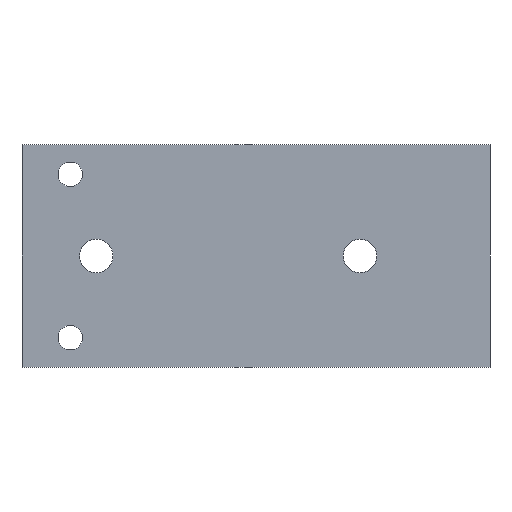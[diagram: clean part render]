
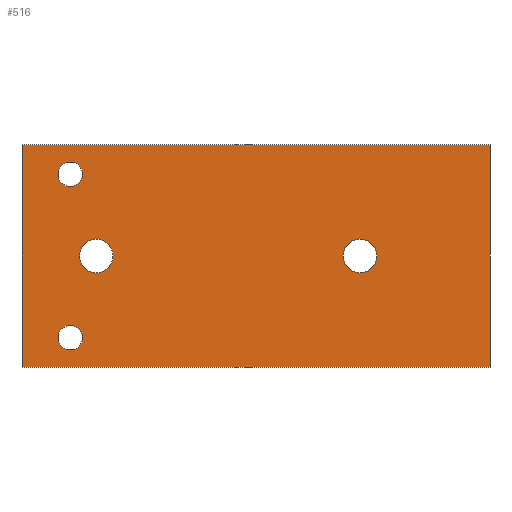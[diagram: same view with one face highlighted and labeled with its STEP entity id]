
A CAD part, front view. The second image highlights one B-rep face of the part: STEP entity #516.
In plain terms, the highlighted planar face has unit normal (0, -1, 0).
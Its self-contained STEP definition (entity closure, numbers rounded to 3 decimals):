
#5 = EDGE_CURVE ( 'NONE', #55, #407, #508, .T. ) ;
#9 = EDGE_CURVE ( 'NONE', #408, #556, #285, .T. ) ;
#12 = EDGE_CURVE ( 'NONE', #631, #54, #284, .T. ) ;
#13 = EDGE_CURVE ( 'NONE', #407, #55, #287, .T. ) ;
#14 = EDGE_CURVE ( 'NONE', #556, #408, #290, .T. ) ;
#15 = EDGE_CURVE ( 'NONE', #386, #64, #291, .T. ) ;
#16 = EDGE_CURVE ( 'NONE', #406, #386, #289, .T. ) ;
#17 = EDGE_CURVE ( 'NONE', #62, #406, #292, .T. ) ;
#18 = EDGE_CURVE ( 'NONE', #64, #62, #294, .T. ) ;
#19 = EDGE_CURVE ( 'NONE', #630, #56, #296, .T. ) ;
#37 = ORIENTED_EDGE ( 'NONE', *, *, #19, .T. ) ;
#40 = ORIENTED_EDGE ( 'NONE', *, *, #5, .F. ) ;
#54 = VERTEX_POINT ( 'NONE', #362 ) ;
#55 = VERTEX_POINT ( 'NONE', #370 ) ;
#56 = VERTEX_POINT ( 'NONE', #361 ) ;
#62 = VERTEX_POINT ( 'NONE', #354 ) ;
#64 = VERTEX_POINT ( 'NONE', #352 ) ;
#65 = EDGE_LOOP ( 'NONE', ( #40, #393 ) ) ;
#68 = EDGE_LOOP ( 'NONE', ( #492, #497, #476, #498 ) ) ;
#93 = FACE_OUTER_BOUND ( 'NONE', #68, .T. ) ;
#95 = FACE_BOUND ( 'NONE', #123, .T. ) ;
#99 = FACE_BOUND ( 'NONE', #65, .T. ) ;
#101 = FACE_BOUND ( 'NONE', #122, .T. ) ;
#102 = FACE_BOUND ( 'NONE', #124, .T. ) ;
#122 = EDGE_LOOP ( 'NONE', ( #37, #486 ) ) ;
#123 = EDGE_LOOP ( 'NONE', ( #128, #404 ) ) ;
#124 = EDGE_LOOP ( 'NONE', ( #133, #496 ) ) ;
#128 = ORIENTED_EDGE ( 'NONE', *, *, #12, .T. ) ;
#133 = ORIENTED_EDGE ( 'NONE', *, *, #9, .F. ) ;
#185 = CARTESIAN_POINT ( 'NONE',  ( 10., 0., 2.25 ) ) ;
#199 = DIRECTION ( 'NONE',  ( 0., 0., 1. ) ) ;
#200 = DIRECTION ( 'NONE',  ( 0., 1., 0. ) ) ;
#201 = CARTESIAN_POINT ( 'NONE',  ( 45.5, 0., 0. ) ) ;
#222 = CARTESIAN_POINT ( 'NONE',  ( 45.5, 0., 2.25 ) ) ;
#224 = DIRECTION ( 'NONE',  ( 0., 0., 1. ) ) ;
#225 = DIRECTION ( 'NONE',  ( 0., 1., 0. ) ) ;
#226 = CARTESIAN_POINT ( 'NONE',  ( 10., 0., 0. ) ) ;
#234 = CARTESIAN_POINT ( 'NONE',  ( 6.5, 0., -12.65 ) ) ;
#284 = CIRCLE ( 'NONE', #615, 2.25 ) ;
#285 = CIRCLE ( 'NONE', #617, 1.65 ) ;
#287 = CIRCLE ( 'NONE', #614, 1.65 ) ;
#289 = LINE ( 'NONE', #430, #295 ) ;
#290 = CIRCLE ( 'NONE', #613, 1.65 ) ;
#291 = LINE ( 'NONE', #437, #293 ) ;
#292 = LINE ( 'NONE', #431, #297 ) ;
#293 = VECTOR ( 'NONE', #436, 1000. ) ;
#294 = LINE ( 'NONE', #426, #299 ) ;
#295 = VECTOR ( 'NONE', #425, 1000. ) ;
#296 = CIRCLE ( 'NONE', #612, 2.25 ) ;
#297 = VECTOR ( 'NONE', #422, 1000. ) ;
#299 = VECTOR ( 'NONE', #419, 1000. ) ;
#324 = DIRECTION ( 'NONE',  ( 0., 0., -1. ) ) ;
#330 = CARTESIAN_POINT ( 'NONE',  ( 0., 0., -15. ) ) ;
#332 = PLANE ( 'NONE',  #604 ) ;
#338 = DIRECTION ( 'NONE',  ( 0., -1., 0. ) ) ;
#340 = CARTESIAN_POINT ( 'NONE',  ( 6.5, 0., -9.35 ) ) ;
#347 = CARTESIAN_POINT ( 'NONE',  ( 0., 0., -15. ) ) ;
#348 = CARTESIAN_POINT ( 'NONE',  ( 6.5, 0., 9.35 ) ) ;
#350 = CARTESIAN_POINT ( 'NONE',  ( 63., 0., -15. ) ) ;
#352 = CARTESIAN_POINT ( 'NONE',  ( 0., 0., 15. ) ) ;
#354 = CARTESIAN_POINT ( 'NONE',  ( 63., 0., 15. ) ) ;
#361 = CARTESIAN_POINT ( 'NONE',  ( 45.5, 0., -2.25 ) ) ;
#362 = CARTESIAN_POINT ( 'NONE',  ( 10., 0., -2.25 ) ) ;
#370 = CARTESIAN_POINT ( 'NONE',  ( 6.5, 0., 12.65 ) ) ;
#386 = VERTEX_POINT ( 'NONE', #347 ) ;
#393 = ORIENTED_EDGE ( 'NONE', *, *, #13, .F. ) ;
#404 = ORIENTED_EDGE ( 'NONE', *, *, #621, .T. ) ;
#406 = VERTEX_POINT ( 'NONE', #350 ) ;
#407 = VERTEX_POINT ( 'NONE', #348 ) ;
#408 = VERTEX_POINT ( 'NONE', #340 ) ;
#410 = DIRECTION ( 'NONE',  ( 0., 0., 1. ) ) ;
#412 = DIRECTION ( 'NONE',  ( 0., 1., 0. ) ) ;
#413 = CARTESIAN_POINT ( 'NONE',  ( 45.5, 0., 0. ) ) ;
#419 = DIRECTION ( 'NONE',  ( 1., 0., 0. ) ) ;
#422 = DIRECTION ( 'NONE',  ( 0., 0., -1. ) ) ;
#425 = DIRECTION ( 'NONE',  ( -1., 0., 0. ) ) ;
#426 = CARTESIAN_POINT ( 'NONE',  ( 0., 0., 15. ) ) ;
#427 = DIRECTION ( 'NONE',  ( 0., 0., -1. ) ) ;
#428 = DIRECTION ( 'NONE',  ( 0., -1., 0. ) ) ;
#429 = CARTESIAN_POINT ( 'NONE',  ( 6.5, 0., -11. ) ) ;
#430 = CARTESIAN_POINT ( 'NONE',  ( 0., 0., -15. ) ) ;
#431 = CARTESIAN_POINT ( 'NONE',  ( 63., 0., 15. ) ) ;
#433 = DIRECTION ( 'NONE',  ( 0., 0., -1. ) ) ;
#434 = DIRECTION ( 'NONE',  ( 0., -1., 0. ) ) ;
#435 = CARTESIAN_POINT ( 'NONE',  ( 6.5, 0., 11. ) ) ;
#436 = DIRECTION ( 'NONE',  ( 0., 0., 1. ) ) ;
#437 = CARTESIAN_POINT ( 'NONE',  ( 0., 0., 15. ) ) ;
#438 = DIRECTION ( 'NONE',  ( 0., 0., 1. ) ) ;
#439 = DIRECTION ( 'NONE',  ( 0., 1., 0. ) ) ;
#440 = CARTESIAN_POINT ( 'NONE',  ( 10., 0., 0. ) ) ;
#444 = DIRECTION ( 'NONE',  ( 0., 0., -1. ) ) ;
#445 = DIRECTION ( 'NONE',  ( 0., -1., 0. ) ) ;
#446 = CARTESIAN_POINT ( 'NONE',  ( 6.5, 0., -11. ) ) ;
#453 = DIRECTION ( 'NONE',  ( 0., 0., -1. ) ) ;
#454 = DIRECTION ( 'NONE',  ( 0., -1., 0. ) ) ;
#456 = CARTESIAN_POINT ( 'NONE',  ( 6.5, 0., 11. ) ) ;
#476 = ORIENTED_EDGE ( 'NONE', *, *, #17, .F. ) ;
#486 = ORIENTED_EDGE ( 'NONE', *, *, #627, .T. ) ;
#492 = ORIENTED_EDGE ( 'NONE', *, *, #15, .F. ) ;
#496 = ORIENTED_EDGE ( 'NONE', *, *, #14, .F. ) ;
#497 = ORIENTED_EDGE ( 'NONE', *, *, #16, .F. ) ;
#498 = ORIENTED_EDGE ( 'NONE', *, *, #18, .F. ) ;
#508 = CIRCLE ( 'NONE', #619, 1.65 ) ;
#516 = ADVANCED_FACE ( 'NONE', ( #95, #99, #102, #93, #101 ), #332, .T. ) ;
#544 = CIRCLE ( 'NONE', #585, 2.25 ) ;
#552 = CIRCLE ( 'NONE', #583, 2.25 ) ;
#556 = VERTEX_POINT ( 'NONE', #234 ) ;
#583 = AXIS2_PLACEMENT_3D ( 'NONE', #201, #200, #199 ) ;
#585 = AXIS2_PLACEMENT_3D ( 'NONE', #226, #225, #224 ) ;
#604 = AXIS2_PLACEMENT_3D ( 'NONE', #330, #338, #324 ) ;
#612 = AXIS2_PLACEMENT_3D ( 'NONE', #413, #412, #410 ) ;
#613 = AXIS2_PLACEMENT_3D ( 'NONE', #429, #428, #427 ) ;
#614 = AXIS2_PLACEMENT_3D ( 'NONE', #435, #434, #433 ) ;
#615 = AXIS2_PLACEMENT_3D ( 'NONE', #440, #439, #438 ) ;
#617 = AXIS2_PLACEMENT_3D ( 'NONE', #446, #445, #444 ) ;
#619 = AXIS2_PLACEMENT_3D ( 'NONE', #456, #454, #453 ) ;
#621 = EDGE_CURVE ( 'NONE', #54, #631, #544, .T. ) ;
#627 = EDGE_CURVE ( 'NONE', #56, #630, #552, .T. ) ;
#630 = VERTEX_POINT ( 'NONE', #222 ) ;
#631 = VERTEX_POINT ( 'NONE', #185 ) ;
